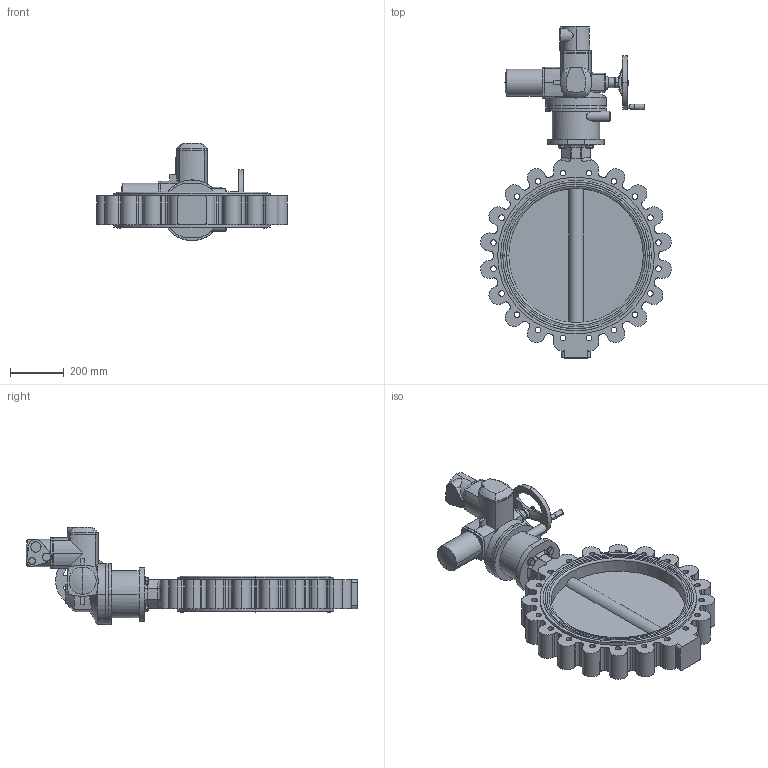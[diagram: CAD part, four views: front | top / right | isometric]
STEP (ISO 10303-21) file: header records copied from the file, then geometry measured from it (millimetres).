
FILE_DESCRIPTION (( 'STEP AP214' ), '1' );
FILE_NAME ('67559.step', '2020-10-23T13:47:21', ( '' ), ( '' ), 'SwSTEP 2.0', 'SolidWorks 2019', '' );
FILE_SCHEMA (( 'AUTOMOTIVE_DESIGN' ));
Length unit declared in the file: millimetre
Products named in the file (7): U-Scheibe DIN 125 A_M16; 6kt-Schr DIN 933_M16x45; Gewindestift mit Kegelkuppe und In-6kt DIN 913 A4_Gewindestift mit In-6kt M6x12; 67559; TL20-0500_M01; 54377_SQ14.2 F14-VK36; SQ(R) 14.2_SQ14.2 Drehstrommotor F14
Assembly tree (12 placements, depth 2):
  67559
    TL20-0500_M01
    U-Scheibe DIN 125 A_M16  x4
    6kt-Schr DIN 933_M16x45  x4
    SQ(R) 14.2_SQ14.2 Drehstrommotor F14
    54377_SQ14.2 F14-VK36
    Gewindestift mit Kegelkuppe und In-6kt DIN 913 A4_Gewindestift mit In-6kt M6x12
Bounding box: 708.99 x 1232.5 x 360.3 mm (x, y, z)
Volume: 36365559.7 mm3; surface area: 2163082.6 mm2
Topology: 12 solids, 18 shells, 871 faces, 2233 edges, 1430 vertices
Faces by surface type: plane 385, cylinder 348, cone 100, bspline 22, torus 12, sphere 4
Entity records: 33767 total; most frequent: CARTESIAN_POINT 9778, DIRECTION 4136, ORIENTED_EDGE 4046, EDGE_CURVE 2023, AXIS2_PLACEMENT_3D 1551, VERTEX_POINT 1308, VECTOR 1034, LINE 1034
